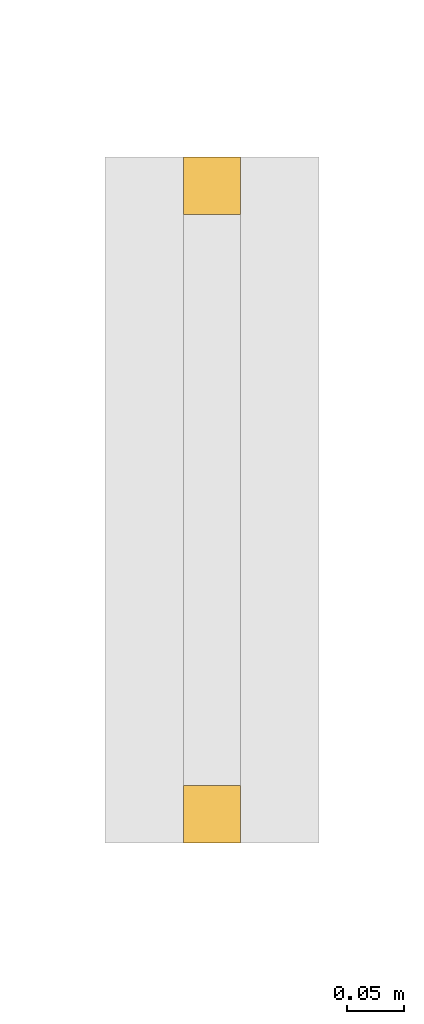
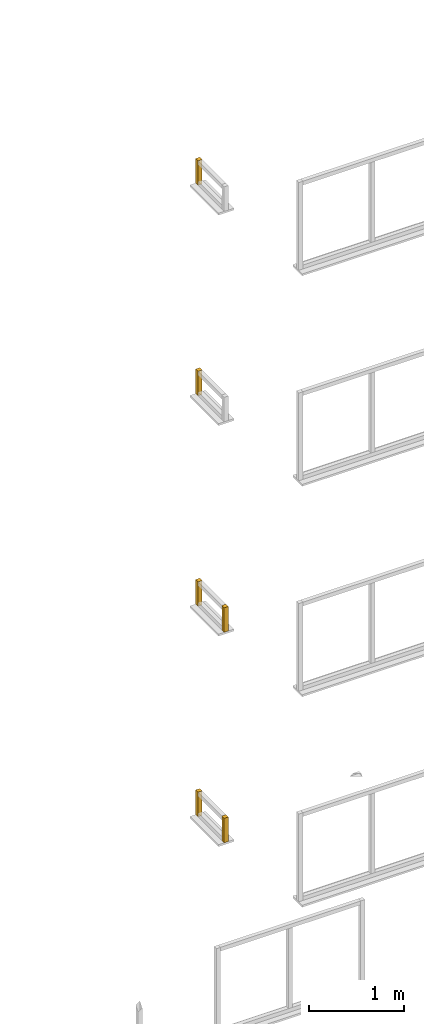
# Not in any storey, part 21 of 22: 6 windows.
"""IFC2X3 model written with IfcOpenShell, lengths in metres."""

from ifc_helpers import new_model, si_unit, frame, origin, place, context, project, faceted_brep, element, save


model = new_model("IFC2X3")

# Units and contexts
model_context = context("Model", 3, precision=1e-06, world=origin())
ifc_project = project(units=[si_unit("LENGTHUNIT", "METRE"), si_unit("PLANEANGLEUNIT", "RADIAN")], contexts=[model_context])

# Windows
placement = place(None, origin())
for number, where, z_axis, x_axis, name in (
    (1, (39.818499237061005, 5.820077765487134, 7.235000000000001), (0.0, 0.0, 1.0), (0.0, 1.0, 0.0), "rightFrame"),
    (2, (39.818499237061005, 5.820077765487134, 9.935000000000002), (0.0, 0.0, 1.0), (0.0, 1.0, 0.0), "rightFrame"),
    (3, (39.818499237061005, 5.820077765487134, 1.835), (0.0, 0.0, 1.0), (0.0, 1.0, 0.0), "rightFrame"),
    (4, (39.818499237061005, 5.820077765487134, 4.535000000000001), (0.0, 0.0, 1.0), (0.0, 1.0, 0.0), "rightFrame"),
    (5, (39.818499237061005, 5.270077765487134, 4.535000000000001), (0.0, 0.0, 1.0), (0.0, 1.0, 0.0), "leftFrame"),
    (6, (39.818499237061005, 5.270077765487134, 1.835), (0.0, 0.0, 1.0), (0.0, 1.0, 0.0), "leftFrame"),
):
    element("IfcWindow", number, at=place(placement, frame(where, z_axis=z_axis, x_axis=x_axis)), Name=name, context=model_context, shape_type="Brep", body=[
        faceted_brep([(0.0, 0.05, 0.0), (0.05, 0.05, 0.0), (0.05, 0.0, 0.0), (0.0, 0.0, 0.0), (0.05, 0.0, 0.315), (0.05, 0.05, 0.315), (0.0, 0.05, 0.315), (0.0, 0.0, 0.315), (0.0, 0.05, 0.0), (0.0, 0.0, 0.0), (0.0, 0.0, 0.315), (0.0, 0.05, 0.315), (0.05, 0.05, 0.0), (0.0, 0.05, 0.0), (0.0, 0.05, 0.315), (0.05, 0.05, 0.315), (0.05, 0.0, 0.0), (0.05, 0.05, 0.0), (0.05, 0.05, 0.315), (0.05, 0.0, 0.315), (0.0, 0.0, 0.0), (0.05, 0.0, 0.0), (0.05, 0.0, 0.315), (0.0, 0.0, 0.315)], [[[0, 1, 2, 3]], [[4, 5, 6, 7]], [[8, 9, 10, 11]], [[12, 13, 14, 15]], [[16, 17, 18, 19]], [[20, 21, 22, 23]]]),
    ])

save(model, "model.ifc")
